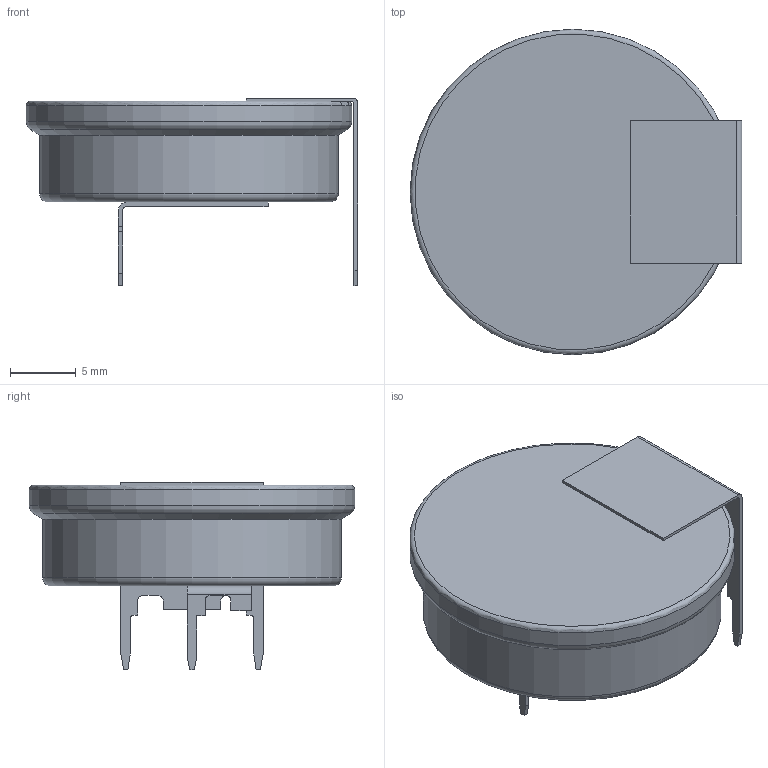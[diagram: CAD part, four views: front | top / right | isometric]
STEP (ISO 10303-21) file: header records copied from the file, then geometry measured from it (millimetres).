
FILE_DESCRIPTION(/* description */ ('Unknown'),/* implementation_level */ '2;1');
FILE_NAME(/* name */ 'CR2477NRH-LF',/* time_stamp */ '2024-04-18T10:54:00+02:00',/* author */ ('Unknown'),/* organization */ ('Unknown'),/* preprocessor_version */ 'ST-DEVELOPER v18.102',/* originating_system */ 'Solid Edge',/* authorisation */ 'Unknown');
FILE_SCHEMA (('AUTOMOTIVE_DESIGN {1 0 10303 214 3 1 1}'));
Length unit declared in the file: millimetre
Products named in the file (1): CR2477NRH-LF
Bounding box: 25.33 x 24.85 x 14.33 mm (x, y, z)
Volume: 3382 mm3; surface area: 1759.3 mm2
Topology: 1 solids, 1 shells, 59 faces, 161 edges, 105 vertices
Faces by surface type: plane 41, cylinder 14, torus 3, cone 1
Full cylindrical faces by diameter (mm): 22.789 x1, 24.85 x1
Entity records: 2249 total; most frequent: CARTESIAN_POINT 318, ORIENTED_EDGE 308, DIRECTION 306, EDGE_CURVE 154, LINE 122, VECTOR 122, VERTEX_POINT 104, AXIS2_PLACEMENT_3D 92
